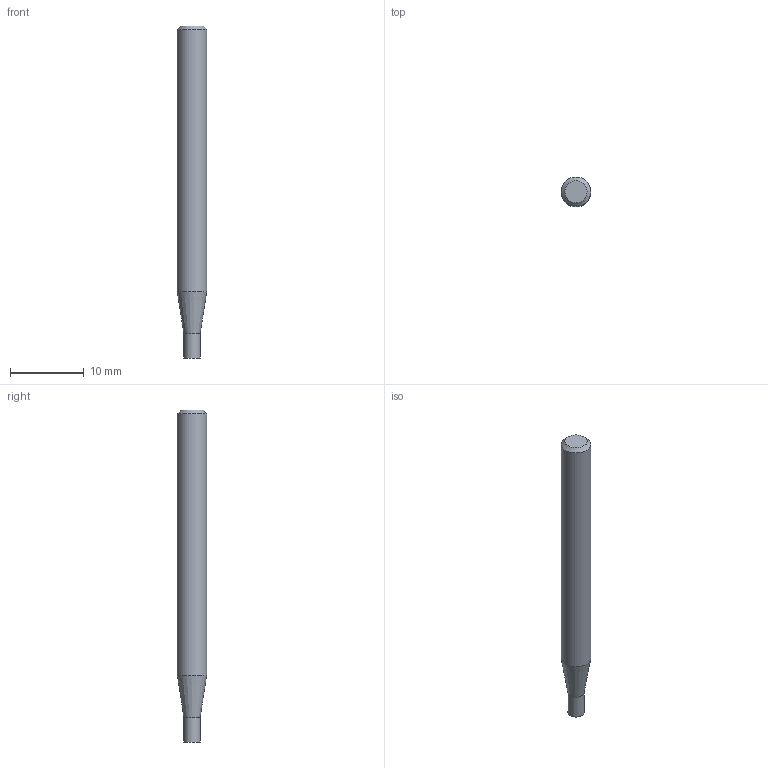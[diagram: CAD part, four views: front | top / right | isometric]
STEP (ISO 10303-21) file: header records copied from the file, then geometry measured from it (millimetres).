
FILE_DESCRIPTION((''),'2;1');
FILE_NAME('C:\Users\nsx150\AppData\Local\Temp\Mastercam 2021\98T1Q6BTT1\TEMP.step','2021-10-21T14:48:04',(''),(''),'STEP Write','Mastercam 2021 ... CNC Software, Inc.','');
FILE_SCHEMA(('AUTOMOTIVE_DESIGN'));
Length unit declared in the file: millimetre
Products named in the file (1): None
Bounding box: 4 x 4 x 45 mm (x, y, z)
Volume: 507.8 mm3; surface area: 551.4 mm2
Topology: 2 solids, 2 shells, 8 faces, 10 edges, 6 vertices
Faces by surface type: plane 4, cylinder 2, cone 2
Full cylindrical faces by diameter (mm): 2.2 x1, 4 x1
Entity records: 190 total; most frequent: DIRECTION 32, CARTESIAN_POINT 22, AXIS2_PLACEMENT_3D 16, ORIENTED_EDGE 12, EDGE_LOOP 12, STYLED_ITEM 11, ADVANCED_FACE 8, VERTEX_POINT 6
